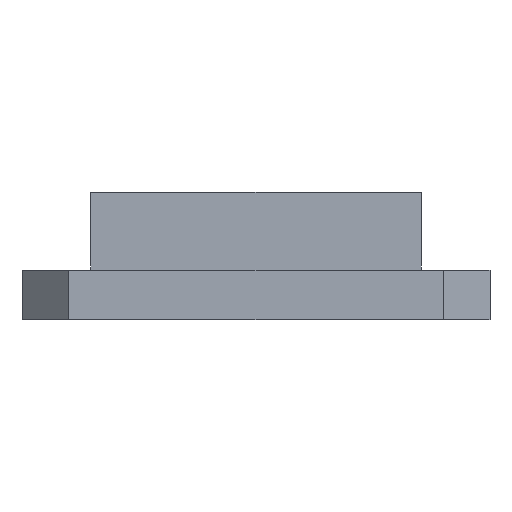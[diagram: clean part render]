
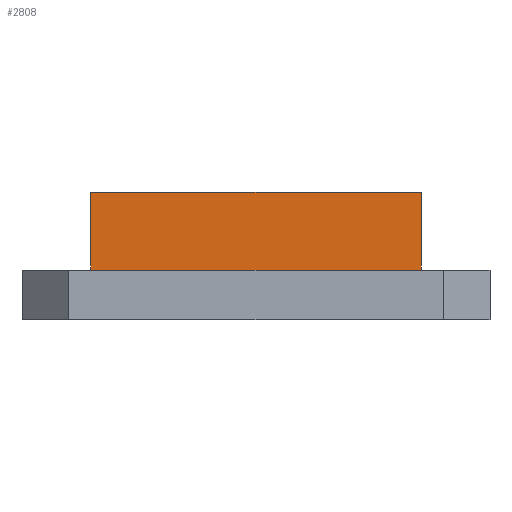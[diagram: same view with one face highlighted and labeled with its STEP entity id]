
A CAD part, front view. The second image highlights one B-rep face of the part: STEP entity #2808.
In plain terms, the highlighted planar face has unit normal (0, -1, 0).
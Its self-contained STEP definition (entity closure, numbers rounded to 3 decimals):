
#97 = PLANE('',#98);
#98 = AXIS2_PLACEMENT_3D('',#99,#100,#101);
#99 = CARTESIAN_POINT('',(-12.,-26.75,3.2));
#100 = DIRECTION('',(0.,0.,-1.));
#101 = DIRECTION('',(0.409,0.912,0.));
#1092 = VERTEX_POINT('',#1093);
#1093 = CARTESIAN_POINT('',(-10.6,-11.85,3.2));
#1107 = PLANE('',#1108);
#1108 = AXIS2_PLACEMENT_3D('',#1109,#1110,#1111);
#1109 = CARTESIAN_POINT('',(-10.6,-11.85,3.2));
#1110 = DIRECTION('',(1.,0.,0.));
#1111 = DIRECTION('',(0.,0.,1.));
#1119 = EDGE_CURVE('',#1092,#1120,#1122,.T.);
#1120 = VERTEX_POINT('',#1121);
#1121 = CARTESIAN_POINT('',(10.6,-11.85,3.2));
#1122 = SURFACE_CURVE('',#1123,(#1127,#1134),.PCURVE_S1.);
#1123 = LINE('',#1124,#1125);
#1124 = CARTESIAN_POINT('',(-10.6,-11.85,3.2));
#1125 = VECTOR('',#1126,1.);
#1126 = DIRECTION('',(1.,0.,0.));
#1127 = PCURVE('',#97,#1128);
#1128 = DEFINITIONAL_REPRESENTATION('',(#1129),#1133);
#1129 = LINE('',#1130,#1131);
#1130 = CARTESIAN_POINT('',(14.168,-4.821));
#1131 = VECTOR('',#1132,1.);
#1132 = DIRECTION('',(0.409,0.912));
#1133 = ( GEOMETRIC_REPRESENTATION_CONTEXT(2) 
PARAMETRIC_REPRESENTATION_CONTEXT() REPRESENTATION_CONTEXT('2D SPACE',''
  ) );
#1134 = PCURVE('',#1135,#1140);
#1135 = PLANE('',#1136);
#1136 = AXIS2_PLACEMENT_3D('',#1137,#1138,#1139);
#1137 = CARTESIAN_POINT('',(-10.6,-11.85,3.2));
#1138 = DIRECTION('',(0.,1.,0.));
#1139 = DIRECTION('',(0.,0.,1.));
#1140 = DEFINITIONAL_REPRESENTATION('',(#1141),#1145);
#1141 = LINE('',#1142,#1143);
#1142 = CARTESIAN_POINT('',(0.,0.));
#1143 = VECTOR('',#1144,1.);
#1144 = DIRECTION('',(0.,1.));
#1145 = ( GEOMETRIC_REPRESENTATION_CONTEXT(2) 
PARAMETRIC_REPRESENTATION_CONTEXT() REPRESENTATION_CONTEXT('2D SPACE',''
  ) );
#1161 = PLANE('',#1162);
#1162 = AXIS2_PLACEMENT_3D('',#1163,#1164,#1165);
#1163 = CARTESIAN_POINT('',(10.6,-11.85,3.2));
#1164 = DIRECTION('',(1.,0.,0.));
#1165 = DIRECTION('',(0.,0.,1.));
#2678 = PLANE('',#2679);
#2679 = AXIS2_PLACEMENT_3D('',#2680,#2681,#2682);
#2680 = CARTESIAN_POINT('',(-10.6,-11.85,8.2));
#2681 = DIRECTION('',(0.,0.,1.));
#2682 = DIRECTION('',(1.,0.,0.));
#2714 = EDGE_CURVE('',#1120,#2715,#2717,.T.);
#2715 = VERTEX_POINT('',#2716);
#2716 = CARTESIAN_POINT('',(10.6,-11.85,8.2));
#2717 = SURFACE_CURVE('',#2718,(#2722,#2729),.PCURVE_S1.);
#2718 = LINE('',#2719,#2720);
#2719 = CARTESIAN_POINT('',(10.6,-11.85,3.2));
#2720 = VECTOR('',#2721,1.);
#2721 = DIRECTION('',(0.,0.,1.));
#2722 = PCURVE('',#1161,#2723);
#2723 = DEFINITIONAL_REPRESENTATION('',(#2724),#2728);
#2724 = LINE('',#2725,#2726);
#2725 = CARTESIAN_POINT('',(0.,0.));
#2726 = VECTOR('',#2727,1.);
#2727 = DIRECTION('',(1.,0.));
#2728 = ( GEOMETRIC_REPRESENTATION_CONTEXT(2) 
PARAMETRIC_REPRESENTATION_CONTEXT() REPRESENTATION_CONTEXT('2D SPACE',''
  ) );
#2729 = PCURVE('',#1135,#2730);
#2730 = DEFINITIONAL_REPRESENTATION('',(#2731),#2735);
#2731 = LINE('',#2732,#2733);
#2732 = CARTESIAN_POINT('',(0.,21.2));
#2733 = VECTOR('',#2734,1.);
#2734 = DIRECTION('',(1.,0.));
#2735 = ( GEOMETRIC_REPRESENTATION_CONTEXT(2) 
PARAMETRIC_REPRESENTATION_CONTEXT() REPRESENTATION_CONTEXT('2D SPACE',''
  ) );
#2763 = EDGE_CURVE('',#1092,#2764,#2766,.T.);
#2764 = VERTEX_POINT('',#2765);
#2765 = CARTESIAN_POINT('',(-10.6,-11.85,8.2));
#2766 = SURFACE_CURVE('',#2767,(#2771,#2778),.PCURVE_S1.);
#2767 = LINE('',#2768,#2769);
#2768 = CARTESIAN_POINT('',(-10.6,-11.85,3.2));
#2769 = VECTOR('',#2770,1.);
#2770 = DIRECTION('',(0.,0.,1.));
#2771 = PCURVE('',#1107,#2772);
#2772 = DEFINITIONAL_REPRESENTATION('',(#2773),#2777);
#2773 = LINE('',#2774,#2775);
#2774 = CARTESIAN_POINT('',(0.,0.));
#2775 = VECTOR('',#2776,1.);
#2776 = DIRECTION('',(1.,0.));
#2777 = ( GEOMETRIC_REPRESENTATION_CONTEXT(2) 
PARAMETRIC_REPRESENTATION_CONTEXT() REPRESENTATION_CONTEXT('2D SPACE',''
  ) );
#2778 = PCURVE('',#1135,#2779);
#2779 = DEFINITIONAL_REPRESENTATION('',(#2780),#2784);
#2780 = LINE('',#2781,#2782);
#2781 = CARTESIAN_POINT('',(0.,0.));
#2782 = VECTOR('',#2783,1.);
#2783 = DIRECTION('',(1.,0.));
#2784 = ( GEOMETRIC_REPRESENTATION_CONTEXT(2) 
PARAMETRIC_REPRESENTATION_CONTEXT() REPRESENTATION_CONTEXT('2D SPACE',''
  ) );
#2808 = ADVANCED_FACE('',(#2809),#1135,.F.);
#2809 = FACE_BOUND('',#2810,.F.);
#2810 = EDGE_LOOP('',(#2811,#2812,#2813,#2834));
#2811 = ORIENTED_EDGE('',*,*,#1119,.F.);
#2812 = ORIENTED_EDGE('',*,*,#2763,.T.);
#2813 = ORIENTED_EDGE('',*,*,#2814,.T.);
#2814 = EDGE_CURVE('',#2764,#2715,#2815,.T.);
#2815 = SURFACE_CURVE('',#2816,(#2820,#2827),.PCURVE_S1.);
#2816 = LINE('',#2817,#2818);
#2817 = CARTESIAN_POINT('',(-10.6,-11.85,8.2));
#2818 = VECTOR('',#2819,1.);
#2819 = DIRECTION('',(1.,0.,0.));
#2820 = PCURVE('',#1135,#2821);
#2821 = DEFINITIONAL_REPRESENTATION('',(#2822),#2826);
#2822 = LINE('',#2823,#2824);
#2823 = CARTESIAN_POINT('',(5.,0.));
#2824 = VECTOR('',#2825,1.);
#2825 = DIRECTION('',(0.,1.));
#2826 = ( GEOMETRIC_REPRESENTATION_CONTEXT(2) 
PARAMETRIC_REPRESENTATION_CONTEXT() REPRESENTATION_CONTEXT('2D SPACE',''
  ) );
#2827 = PCURVE('',#2678,#2828);
#2828 = DEFINITIONAL_REPRESENTATION('',(#2829),#2833);
#2829 = LINE('',#2830,#2831);
#2830 = CARTESIAN_POINT('',(0.,0.));
#2831 = VECTOR('',#2832,1.);
#2832 = DIRECTION('',(1.,0.));
#2833 = ( GEOMETRIC_REPRESENTATION_CONTEXT(2) 
PARAMETRIC_REPRESENTATION_CONTEXT() REPRESENTATION_CONTEXT('2D SPACE',''
  ) );
#2834 = ORIENTED_EDGE('',*,*,#2714,.F.);
